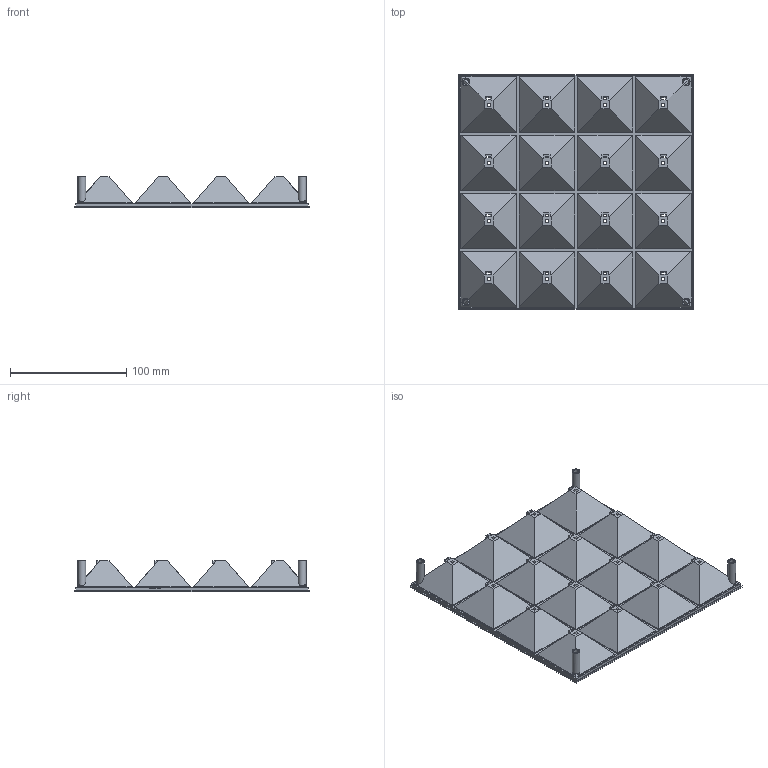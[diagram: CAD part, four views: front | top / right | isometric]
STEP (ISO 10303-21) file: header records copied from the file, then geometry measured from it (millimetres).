
FILE_DESCRIPTION(('Open CASCADE Model'),'2;1');
FILE_NAME('Open CASCADE Shape Model','2026-11-10T17:01:22',('Author'),( 'Open CASCADE'),'Open CASCADE STEP processor 7.9','Open CASCADE 7.9' ,'Unknown');
FILE_SCHEMA(('AUTOMOTIVE_DESIGN { 1 0 10303 214 1 1 1 1 }'));
Length unit declared in the file: millimetre
Products named in the file (2): T01_R12_hollow_post_optical_grid; 01_R12_hollow_post_optical_grid
Assembly tree (1 placements, depth 2):
  T01_R12_hollow_post_optical_grid
    01_R12_hollow_post_optical_grid
Bounding box: 201.6 x 201.6 x 27.4 mm (x, y, z)
Volume: 110460.1 mm3; surface area: 128060.6 mm2
Topology: 1 solids, 5 shells, 876 faces, 2518 edges, 1686 vertices
Faces by surface type: bspline 376, plane 292, cylinder 140, sphere 64, cone 4
Full cylindrical faces by diameter (mm): 3.7 x4, 4.2 x8, 6.6 x8
Entity records: 93896 total; most frequent: CARTESIAN_POINT 52173, ORIENTED_EDGE 5036, PCURVE 5036, DEFINITIONAL_REPRESENTATION 5036, DIRECTION 4768, B_SPLINE_CURVE_WITH_KNOTS 4210, EDGE_CURVE 2518, LINE 2500
